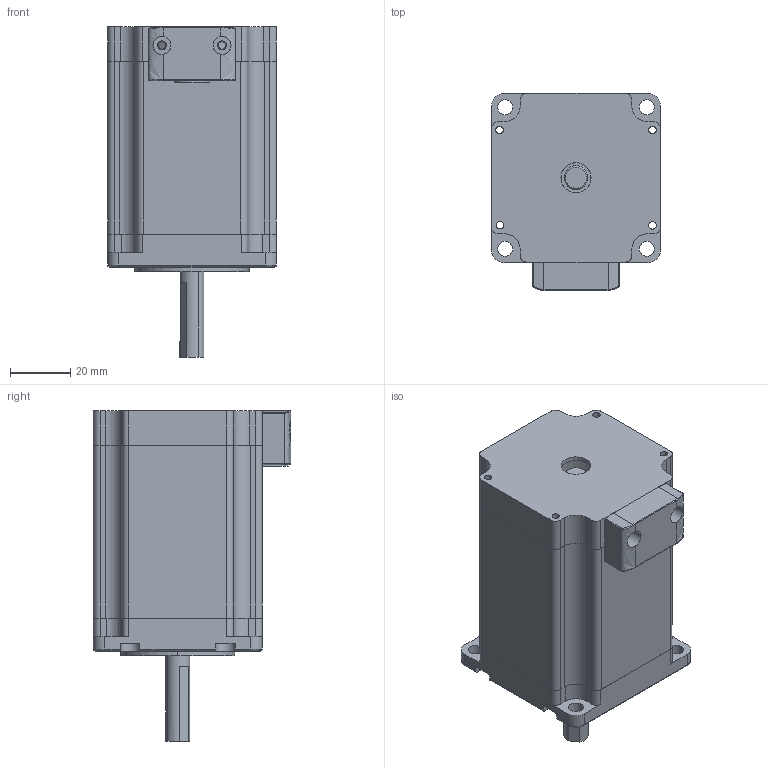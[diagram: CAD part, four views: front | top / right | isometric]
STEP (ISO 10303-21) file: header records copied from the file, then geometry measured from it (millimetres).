
FILE_DESCRIPTION (( 'STEP AP214' ), '1' );
FILE_NAME ('57CM24-30.STEP', '2024-12-13T07:26:08', ( 'MM' ), ( 'Microsoft' ), 'SwSTEP 2.0', 'SolidWorks 2020', '' );
FILE_SCHEMA (( 'AUTOMOTIVE_DESIGN' ));
Length unit declared in the file: millimetre
Products named in the file (7): 隅赽; 蛌赽郪璃; 57等謂揤盄輸; 57綴裔; 57 ヶ裔; 57CM24-30; 蛌粣
Assembly tree (6 placements, depth 3):
  57CM24-30
    57綴裔
    隅赽
    57 ヶ裔
    蛌赽郪璃
      蛌粣
    57等謂揤盄輸
Bounding box: 56.2 x 65.7 x 110 mm (x, y, z)
Volume: 113678.3 mm3; surface area: 73732.7 mm2
Topology: 5 solids, 5 shells, 516 faces, 1420 edges, 929 vertices
Faces by surface type: cylinder 303, plane 179, bspline 14, cone 12, torus 8
Entity records: 18334 total; most frequent: CARTESIAN_POINT 3871, DIRECTION 2993, ORIENTED_EDGE 2836, EDGE_CURVE 1418, AXIS2_PLACEMENT_3D 1131, VERTEX_POINT 929, LINE 731, VECTOR 731
